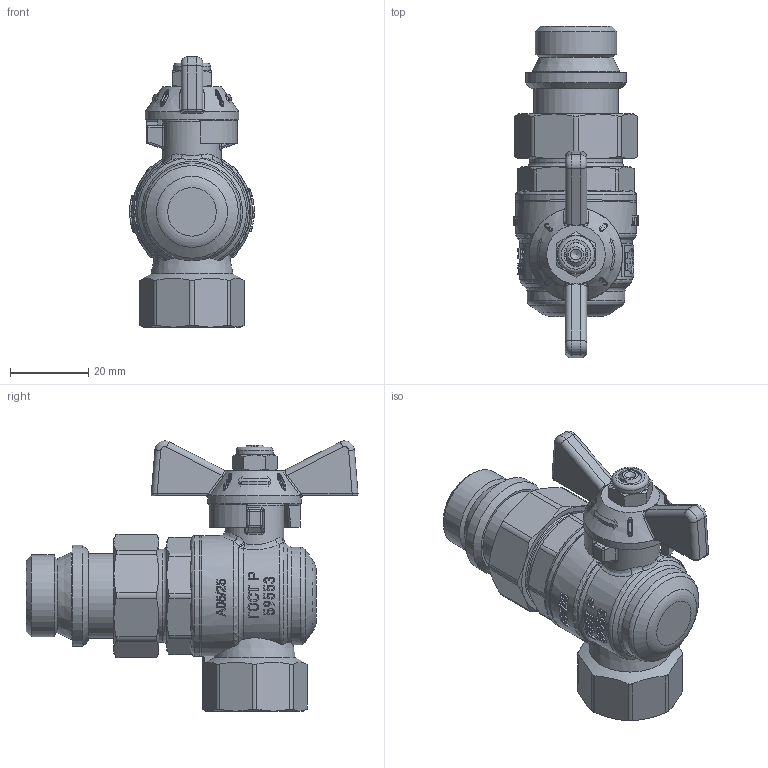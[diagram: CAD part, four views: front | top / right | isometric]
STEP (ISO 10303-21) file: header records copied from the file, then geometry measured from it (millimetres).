
FILE_DESCRIPTION(('STEP AP203'), '1');
FILE_NAME('VT.228S.NRW.04', '', ('UNSPECIFIED'), ('UNSPECIFIED'), 'C3D Converter', 'C3D Toolkit', '');
FILE_SCHEMA(('CONFIG_CONTROL_DESIGN'));
Length unit declared in the file: millimetre
Products named in the file (1): ВР.491816.027.000 СБ
Bounding box: 31.9 x 85 x 69.18 mm (x, y, z)
Volume: 38471.6 mm3; surface area: 19743.9 mm2
Topology: 1 solids, 1 shells, 1937 faces, 5401 edges, 3530 vertices
Faces by surface type: plane 1421, extrusion 179, cylinder 146, cone 98, bspline 58, torus 31, sphere 4
Full cylindrical faces by diameter (mm): 6 x1, 8 x1, 9.5 x1, 10.5 x1, 12 x1, 13 x1, 14 x1, 15 x2, 16.6 x1, 18 x1, 18.2 x1, 18.632 x1, 20.7 x1, 20.9 x1, 20.955 x1, 21.7 x1, 22.2 x1, 22.4 x1, 23.4 x1, 23.8 x1, 24 x1, 25 x1, 25.9 x1, 30.9 x2
Entity records: 72436 total; most frequent: CARTESIAN_POINT 30560, ORIENTED_EDGE 10634, DIRECTION 6546, EDGE_CURVE 5317, VERTEX_POINT 3525, AXIS2_PLACEMENT_3D 2190, VECTOR 2166, EDGE_LOOP 2078
